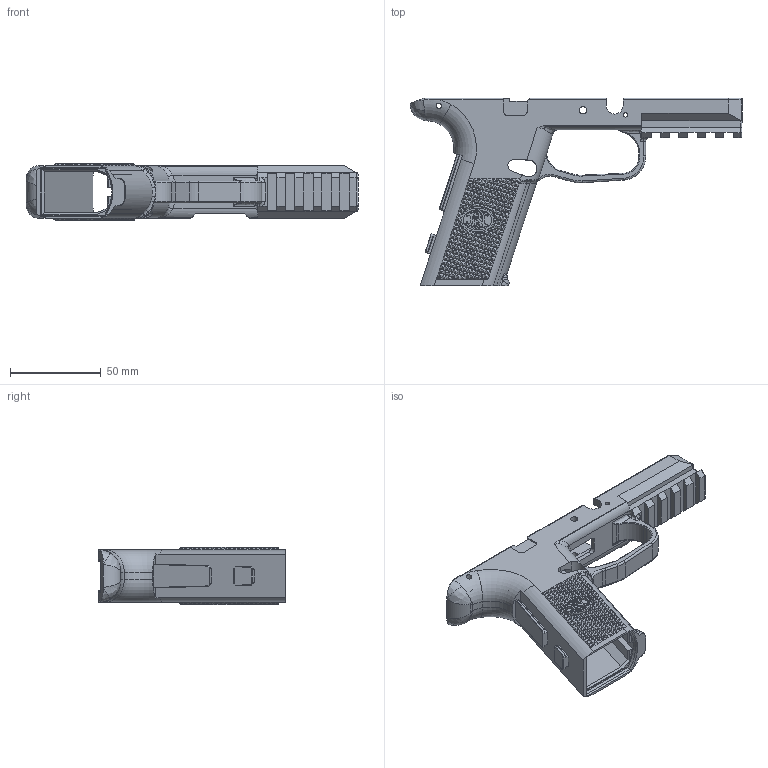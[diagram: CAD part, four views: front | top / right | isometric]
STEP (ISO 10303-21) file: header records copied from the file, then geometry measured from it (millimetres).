
FILE_DESCRIPTION(/* description */ (''),/* implementation_level */ '2;1');
FILE_NAME(/* name */ 'C:/Users/Bob/Desktop/FNS-940_Texture_8 v2.step',/* time_stamp */ '2021-06-11T14:04:50-07:00',/* author */ (''),/* organization */ (''),/* preprocessor_version */ 'ST-DEVELOPER v18.1',/* originating_system */ 'Autodesk Translation Framework v10.9.0.1377',/* authorisation */ '');
FILE_SCHEMA (('AUTOMOTIVE_DESIGN { 1 0 10303 214 3 1 1 }'));
Products named in the file (5): FNS-940_Texture_8; Main Frame; Compact Size Grip; Standard Size Grip; Standard Size Grip (Stopgap)
Assembly tree (4 placements, depth 2):
  FNS-940_Texture_8
    Main Frame
    Compact Size Grip
    Standard Size Grip
    Standard Size Grip (Stopgap)
Bounding box: 183.1 x 103.6 x 31.54 mm (x, y, z)
Volume: 78843.8 mm3; surface area: 48230.3 mm2
Topology: 2 solids, 2 shells, 2989 faces, 6421 edges, 3391 vertices
Faces by surface type: plane 2650, bspline 175, cylinder 127, torus 31, cone 6
Full cylindrical faces by diameter (mm): 0.612 x2, 2.5 x2, 3 x2, 4.1 x2
Entity records: 92597 total; most frequent: CARTESIAN_POINT 30773, ORIENTED_EDGE 12830, DIRECTION 11923, EDGE_CURVE 6415, LINE 5569, VECTOR 5569, VERTEX_POINT 3391, AXIS2_PLACEMENT_3D 3177
